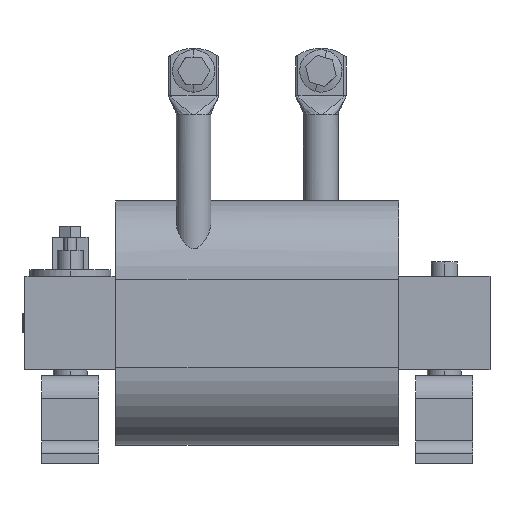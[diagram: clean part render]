
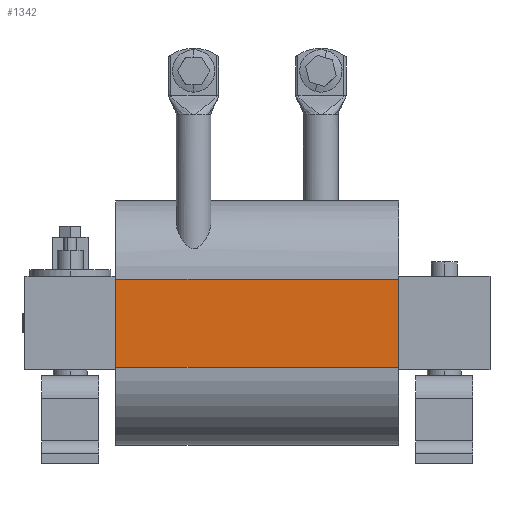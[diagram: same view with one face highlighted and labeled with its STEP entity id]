
A CAD part, left-side view. The second image highlights one B-rep face of the part: STEP entity #1342.
In plain terms, the highlighted planar face has unit normal (-1, 0, 0).
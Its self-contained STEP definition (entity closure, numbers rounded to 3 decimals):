
#602 = LINE ( 'NONE', #18433, #20761 ) ;
#1342 = ADVANCED_FACE ( 'NONE', ( #19755 ), #19862, .F. ) ;
#1567 = ORIENTED_EDGE ( 'NONE', *, *, #9888, .F. ) ;
#1779 = VECTOR ( 'NONE', #19392, 1000. ) ;
#4366 = CARTESIAN_POINT ( 'NONE',  ( -164.5, 56., -27. ) ) ;
#5254 = LINE ( 'NONE', #12273, #1779 ) ;
#5407 = ORIENTED_EDGE ( 'NONE', *, *, #18432, .T. ) ;
#7241 = ORIENTED_EDGE ( 'NONE', *, *, #7689, .T. ) ;
#7689 = EDGE_CURVE ( 'NONE', #18129, #8407, #602, .T. ) ;
#7738 = DIRECTION ( 'NONE',  ( 0., 0., 1. ) ) ;
#8407 = VERTEX_POINT ( 'NONE', #10003 ) ;
#9888 = EDGE_CURVE ( 'NONE', #15128, #8407, #21779, .T. ) ;
#10003 = CARTESIAN_POINT ( 'NONE',  ( -164.5, 56., 27. ) ) ;
#10570 = CARTESIAN_POINT ( 'NONE',  ( -164.5, 229.6, -27. ) ) ;
#10686 = DIRECTION ( 'NONE',  ( 1., 0., 0. ) ) ;
#12273 = CARTESIAN_POINT ( 'NONE',  ( -164.5, 229.6, -27. ) ) ;
#12817 = EDGE_CURVE ( 'NONE', #18679, #15128, #5254, .T. ) ;
#14051 = AXIS2_PLACEMENT_3D ( 'NONE', #10570, #10686, #17698 ) ;
#15128 = VERTEX_POINT ( 'NONE', #21096 ) ;
#16058 = CARTESIAN_POINT ( 'NONE',  ( -164.5, 229.6, -27. ) ) ;
#16519 = DIRECTION ( 'NONE',  ( 0., -1., 0. ) ) ;
#17371 = VECTOR ( 'NONE', #18244, 1000. ) ;
#17698 = DIRECTION ( 'NONE',  ( 0., 1., 0. ) ) ;
#18004 = CARTESIAN_POINT ( 'NONE',  ( -164.5, 229.6, 27. ) ) ;
#18015 = CARTESIAN_POINT ( 'NONE',  ( -164.5, 229.6, -27. ) ) ;
#18129 = VERTEX_POINT ( 'NONE', #4366 ) ;
#18244 = DIRECTION ( 'NONE',  ( 0., -1., 0. ) ) ;
#18432 = EDGE_CURVE ( 'NONE', #18679, #18129, #21681, .T. ) ;
#18433 = CARTESIAN_POINT ( 'NONE',  ( -164.5, 56., -27. ) ) ;
#18618 = ORIENTED_EDGE ( 'NONE', *, *, #12817, .F. ) ;
#18679 = VERTEX_POINT ( 'NONE', #16058 ) ;
#19392 = DIRECTION ( 'NONE',  ( 0., 0., 1. ) ) ;
#19755 = FACE_OUTER_BOUND ( 'NONE', #21544, .T. ) ;
#19862 = PLANE ( 'NONE',  #14051 ) ;
#20761 = VECTOR ( 'NONE', #7738, 1000. ) ;
#21096 = CARTESIAN_POINT ( 'NONE',  ( -164.5, 229.6, 27. ) ) ;
#21544 = EDGE_LOOP ( 'NONE', ( #7241, #1567, #18618, #5407 ) ) ;
#21681 = LINE ( 'NONE', #18015, #17371 ) ;
#21779 = LINE ( 'NONE', #18004, #22250 ) ;
#22250 = VECTOR ( 'NONE', #16519, 1000. ) ;
